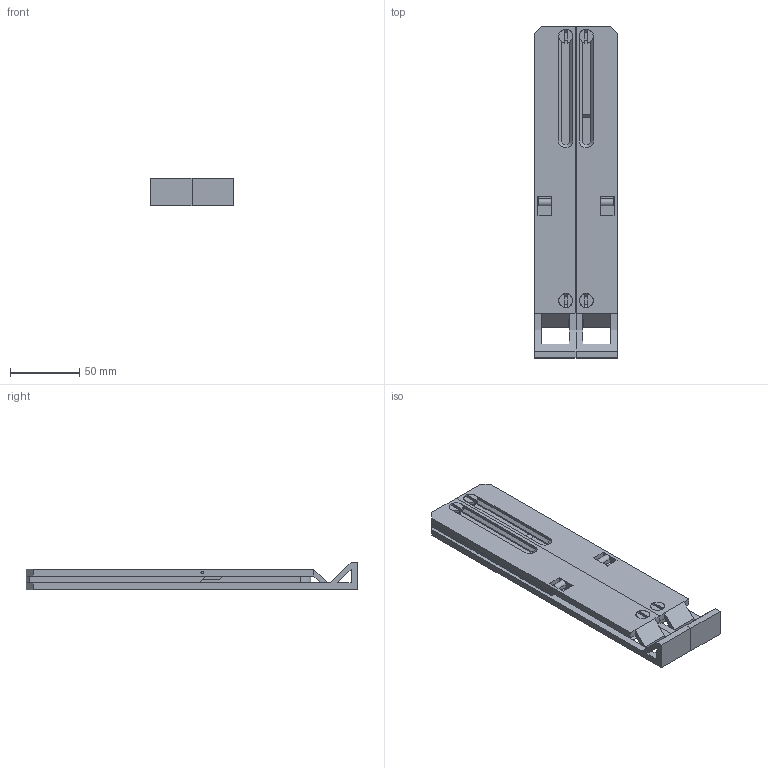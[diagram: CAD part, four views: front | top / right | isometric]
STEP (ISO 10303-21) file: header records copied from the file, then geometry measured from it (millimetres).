
FILE_DESCRIPTION(/* description */ (''),/* implementation_level */ '2;1');
FILE_NAME(/* name */ 'Laptop Stand.step',/* time_stamp */ '2023-03-07T18:23:35-05:00',/* author */ (''),/* organization */ (''),/* preprocessor_version */ 'ST-DEVELOPER v19.2',/* originating_system */ 'Autodesk Translation Framework v11.17.0.187',/* authorisation */ '');
FILE_SCHEMA (('AUTOMOTIVE_DESIGN { 1 0 10303 214 3 1 1 }'));
Length unit declared in the file: millimetre
Products named in the file (10): Laptop Stand; Laptop Holder; Left Base; Right Base; Left Hinge; Right Hinge; Left Rest; Right Rest; Left Stand; Right Stand
Assembly tree (9 placements, depth 3):
  Laptop Stand
    Laptop Holder
      Left Base
      Right Base
      Left Hinge
      Right Hinge
      Left Rest
      Right Rest
      Left Stand
      Right Stand
Bounding box: 60 x 240 x 20 mm (x, y, z)
Volume: 157248.9 mm3; surface area: 93930.7 mm2
Topology: 13 solids, 13 shells, 417 faces, 1146 edges, 753 vertices
Faces by surface type: plane 223, cylinder 155, bspline 20, cone 19
Full cylindrical faces by diameter (mm): 2 x12, 4.744 x4, 5.235 x17, 5.884 x15, 6.2 x3, 6.347 x18, 10.2 x2
Entity records: 23943 total; most frequent: CARTESIAN_POINT 13376, ORIENTED_EDGE 2292, DIRECTION 1869, EDGE_CURVE 1146, VERTEX_POINT 753, LINE 695, VECTOR 695, AXIS2_PLACEMENT_3D 587
